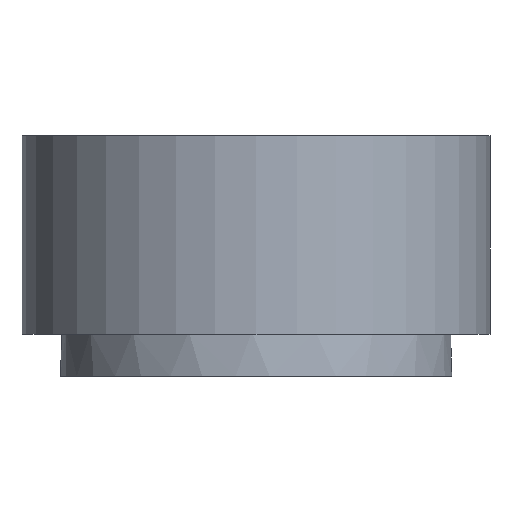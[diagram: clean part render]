
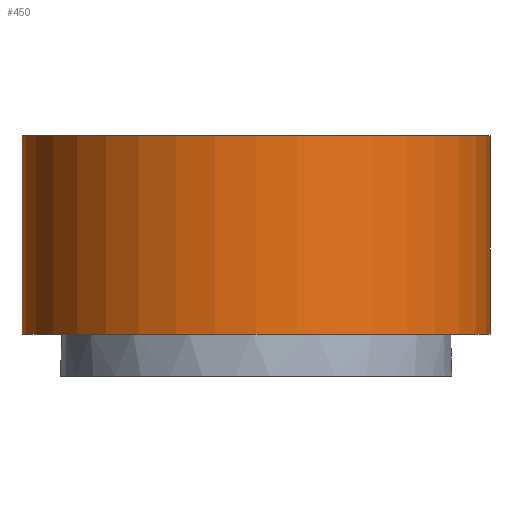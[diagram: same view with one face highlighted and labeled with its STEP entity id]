
A CAD part, front view. The second image highlights one B-rep face of the part: STEP entity #450.
In plain terms, the highlighted cylindrical face has radius 69.5 mm (diameter 139 mm), a full revolution.
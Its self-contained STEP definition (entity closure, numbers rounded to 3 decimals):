
#33=CYLINDRICAL_SURFACE($,#523,69.5);
#58=FACE_OUTER_BOUND($,#176,.T.);
#108=FACE_BOUND($,#177,.T.);
#176=EDGE_LOOP($,(#356));
#177=EDGE_LOOP($,(#357));
#215=CIRCLE($,#514,69.5);
#217=CIRCLE($,#518,69.5);
#251=VERTEX_POINT($,#772);
#253=VERTEX_POINT($,#778);
#287=EDGE_CURVE($,#251,#251,#215,.T.);
#289=EDGE_CURVE($,#253,#253,#217,.T.);
#356=ORIENTED_EDGE($,*,*,#287,.T.);
#357=ORIENTED_EDGE($,*,*,#289,.T.);
#450=ADVANCED_FACE($,(#58,#108),#33,.T.);
#514=AXIS2_PLACEMENT_3D($,#773,#645,#646);
#518=AXIS2_PLACEMENT_3D($,#779,#653,#654);
#523=AXIS2_PLACEMENT_3D($,#786,#663,#664);
#645=DIRECTION('center_axis',(0.,0.,1.));
#646=DIRECTION('ref_axis',(-1.,0.,0.));
#653=DIRECTION('center_axis',(0.,0.,-1.));
#654=DIRECTION('ref_axis',(-1.,0.,0.));
#663=DIRECTION('center_axis',(0.,0.,1.));
#664=DIRECTION('ref_axis',(-1.,0.,0.));
#772=CARTESIAN_POINT('',(69.5,0.,-29.5));
#773=CARTESIAN_POINT('Origin',(0.,0.,-29.5));
#778=CARTESIAN_POINT('',(69.5,0.,29.5));
#779=CARTESIAN_POINT('Origin',(0.,0.,29.5));
#786=CARTESIAN_POINT('Origin',(0.,0.,0.));
